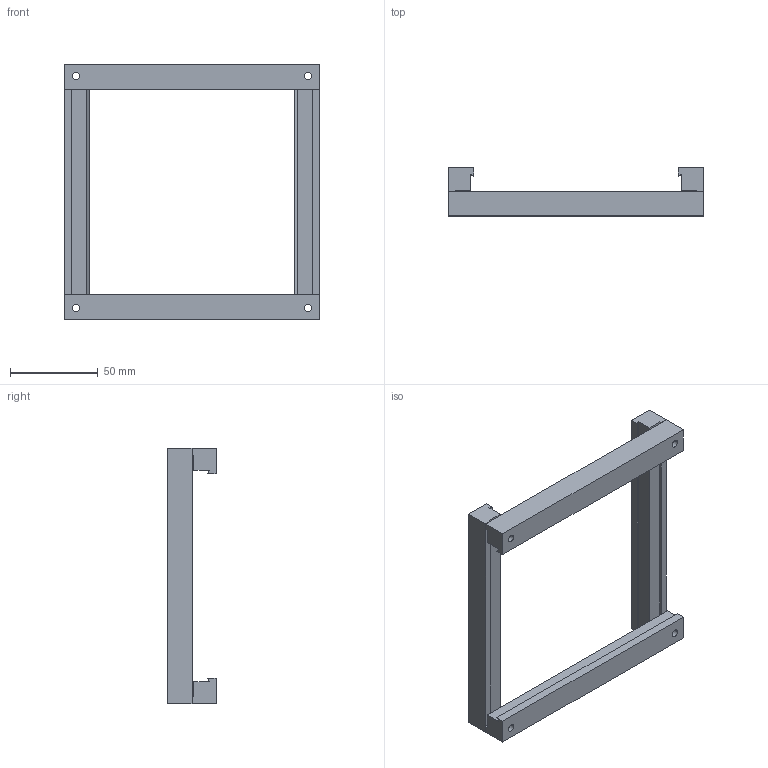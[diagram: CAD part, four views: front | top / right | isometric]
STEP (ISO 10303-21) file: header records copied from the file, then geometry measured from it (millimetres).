
FILE_DESCRIPTION (( 'STEP AP203' ), '1' );
FILE_NAME ('X-Y Verbindung dL120.STEP', '2002-07-08T13:03:33', ( '' ), ( '' ), 'SwSTEP 2.0', 'SolidWorks 2002127', '' );
FILE_SCHEMA (( 'CONFIG_CONTROL_DESIGN' ));
Length unit declared in the file: millimetre
Products named in the file (3): X-Y Verbindung dL120; Klemmleiste Se. 120-+-D005589_ _Standard; Klemmleiste ge. 120-+-D005592_ _Standard
Assembly tree (4 placements, depth 2):
  X-Y Verbindung dL120
    Klemmleiste ge. 120-+-D005592_ _Standard  x2
    Klemmleiste Se. 120-+-D005589_ _Standard  x2
Bounding box: 145 x 27.4 x 145 mm (x, y, z)
Volume: 96568 mm3; surface area: 36405.2 mm2
Topology: 4 solids, 4 shells, 72 faces, 192 edges, 128 vertices
Faces by surface type: plane 48, cylinder 24
Entity records: 1513 total; most frequent: DIRECTION 210, CARTESIAN_POINT 203, ORIENTED_EDGE 192, EDGE_CURVE 96, AXIS2_PLACEMENT_3D 71, LINE 68, VECTOR 68, VERTEX_POINT 64
